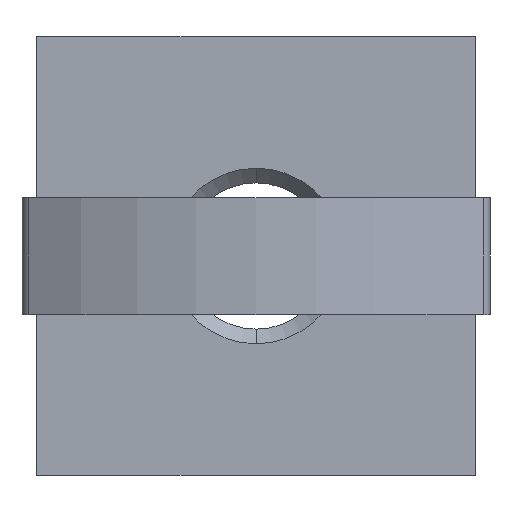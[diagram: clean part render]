
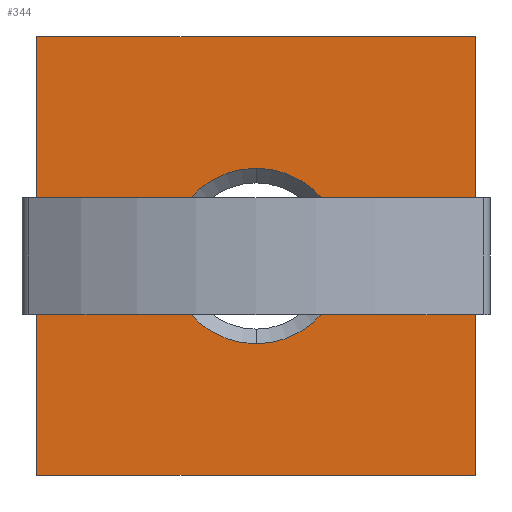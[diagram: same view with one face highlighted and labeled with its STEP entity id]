
A CAD part, front view. The second image highlights one B-rep face of the part: STEP entity #344.
In plain terms, the highlighted planar face has unit normal (0, -1, 0).
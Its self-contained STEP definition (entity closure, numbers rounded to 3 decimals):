
#17 = VERTEX_POINT ( 'NONE', #141 ) ;
#64 = EDGE_CURVE ( 'NONE', #731, #655, #350, .T. ) ;
#67 = VECTOR ( 'NONE', #245, 1000. ) ;
#75 = DIRECTION ( 'NONE',  ( 0., 0., 1. ) ) ;
#85 = CARTESIAN_POINT ( 'NONE',  ( 0., -1.5, 0. ) ) ;
#90 = LINE ( 'NONE', #407, #826 ) ;
#109 = PLANE ( 'NONE',  #131 ) ;
#120 = EDGE_CURVE ( 'NONE', #552, #731, #153, .T. ) ;
#131 = AXIS2_PLACEMENT_3D ( 'NONE', #85, #234, #727 ) ;
#135 = EDGE_LOOP ( 'NONE', ( #410, #397, #615, #829 ) ) ;
#138 = CARTESIAN_POINT ( 'NONE',  ( 0., -1.5, 0. ) ) ;
#141 = CARTESIAN_POINT ( 'NONE',  ( 0., -1.5, 3. ) ) ;
#153 = LINE ( 'NONE', #519, #682 ) ;
#160 = EDGE_CURVE ( 'NONE', #655, #610, #90, .T. ) ;
#208 = ORIENTED_EDGE ( 'NONE', *, *, #569, .T. ) ;
#225 = VERTEX_POINT ( 'NONE', #786 ) ;
#226 = CARTESIAN_POINT ( 'NONE',  ( 7.5, -1.5, -7.5 ) ) ;
#234 = DIRECTION ( 'NONE',  ( 0., 1., 0. ) ) ;
#245 = DIRECTION ( 'NONE',  ( 1., 0., 0. ) ) ;
#309 = AXIS2_PLACEMENT_3D ( 'NONE', #744, #327, #818 ) ;
#327 = DIRECTION ( 'NONE',  ( 0., 1., 0. ) ) ;
#344 = ADVANCED_FACE ( 'NONE', ( #491, #827 ), #109, .F. ) ;
#350 = LINE ( 'NONE', #771, #700 ) ;
#397 = ORIENTED_EDGE ( 'NONE', *, *, #64, .F. ) ;
#407 = CARTESIAN_POINT ( 'NONE',  ( -7.5, -1.5, -7.5 ) ) ;
#410 = ORIENTED_EDGE ( 'NONE', *, *, #160, .F. ) ;
#454 = DIRECTION ( 'NONE',  ( -1., 0., 0. ) ) ;
#467 = EDGE_CURVE ( 'NONE', #610, #552, #824, .T. ) ;
#491 = FACE_BOUND ( 'NONE', #906, .T. ) ;
#494 = DIRECTION ( 'NONE',  ( 0., 1., 0. ) ) ;
#519 = CARTESIAN_POINT ( 'NONE',  ( 7.5, -1.5, -7.5 ) ) ;
#540 = CIRCLE ( 'NONE', #309, 3. ) ;
#552 = VERTEX_POINT ( 'NONE', #673 ) ;
#564 = CIRCLE ( 'NONE', #846, 3. ) ;
#569 = EDGE_CURVE ( 'NONE', #225, #17, #540, .T. ) ;
#610 = VERTEX_POINT ( 'NONE', #905 ) ;
#615 = ORIENTED_EDGE ( 'NONE', *, *, #120, .F. ) ;
#635 = CARTESIAN_POINT ( 'NONE',  ( -7.5, -1.5, -7.5 ) ) ;
#655 = VERTEX_POINT ( 'NONE', #635 ) ;
#668 = DIRECTION ( 'NONE',  ( 0., 0., -1. ) ) ;
#673 = CARTESIAN_POINT ( 'NONE',  ( 7.5, -1.5, 7.5 ) ) ;
#682 = VECTOR ( 'NONE', #668, 1000. ) ;
#692 = EDGE_CURVE ( 'NONE', #17, #225, #564, .T. ) ;
#700 = VECTOR ( 'NONE', #454, 1000. ) ;
#727 = DIRECTION ( 'NONE',  ( 0., 0., 1. ) ) ;
#731 = VERTEX_POINT ( 'NONE', #226 ) ;
#744 = CARTESIAN_POINT ( 'NONE',  ( 0., -1.5, 0. ) ) ;
#771 = CARTESIAN_POINT ( 'NONE',  ( -7.5, -1.5, -7.5 ) ) ;
#774 = ORIENTED_EDGE ( 'NONE', *, *, #692, .T. ) ;
#786 = CARTESIAN_POINT ( 'NONE',  ( 0., -1.5, -3. ) ) ;
#812 = CARTESIAN_POINT ( 'NONE',  ( -7.5, -1.5, 7.5 ) ) ;
#818 = DIRECTION ( 'NONE',  ( 0., 0., 1. ) ) ;
#824 = LINE ( 'NONE', #812, #67 ) ;
#826 = VECTOR ( 'NONE', #898, 1000. ) ;
#827 = FACE_OUTER_BOUND ( 'NONE', #135, .T. ) ;
#829 = ORIENTED_EDGE ( 'NONE', *, *, #467, .F. ) ;
#846 = AXIS2_PLACEMENT_3D ( 'NONE', #138, #494, #75 ) ;
#898 = DIRECTION ( 'NONE',  ( 0., 0., 1. ) ) ;
#905 = CARTESIAN_POINT ( 'NONE',  ( -7.5, -1.5, 7.5 ) ) ;
#906 = EDGE_LOOP ( 'NONE', ( #208, #774 ) ) ;
